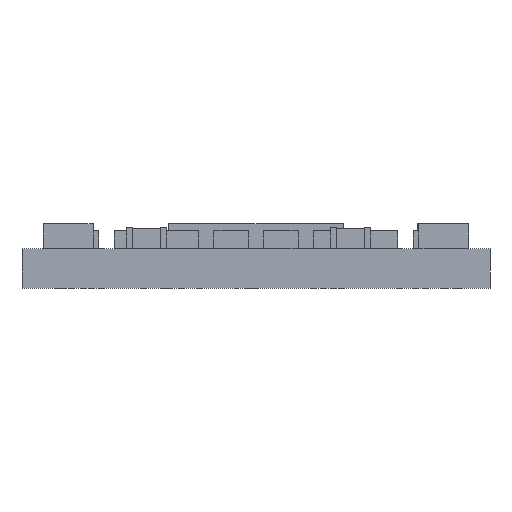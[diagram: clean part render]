
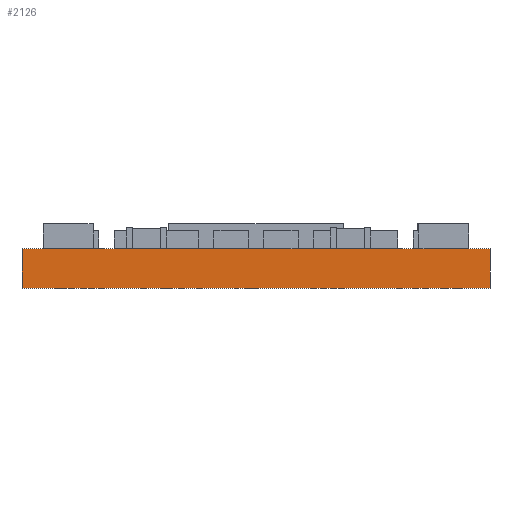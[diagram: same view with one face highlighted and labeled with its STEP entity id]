
A CAD part, front view. The second image highlights one B-rep face of the part: STEP entity #2126.
In plain terms, the highlighted planar face has unit normal (0, -1, 0).
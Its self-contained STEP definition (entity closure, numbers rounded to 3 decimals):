
#15=DIRECTION('',(1.,0.,0.));
#16=VECTOR('',#15,18.8);
#17=CARTESIAN_POINT('',(-9.4,-9.4,0.));
#18=LINE('',#17,#16);
#572=DIRECTION('',(0.,0.,1.));
#573=VECTOR('',#572,1.6);
#574=CARTESIAN_POINT('',(-9.4,-9.4,0.));
#575=LINE('',#574,#573);
#593=DIRECTION('',(0.,0.,1.));
#594=VECTOR('',#593,1.6);
#595=CARTESIAN_POINT('',(9.4,-9.4,0.));
#596=LINE('',#595,#594);
#600=DIRECTION('',(1.,0.,0.));
#601=VECTOR('',#600,18.8);
#602=CARTESIAN_POINT('',(-9.4,-9.4,1.6));
#603=LINE('',#602,#601);
#1618=CARTESIAN_POINT('',(-9.4,-9.4,0.));
#1619=CARTESIAN_POINT('',(9.4,-9.4,0.));
#1620=VERTEX_POINT('',#1618);
#1621=VERTEX_POINT('',#1619);
#1626=CARTESIAN_POINT('',(-9.4,-9.4,1.6));
#1627=CARTESIAN_POINT('',(9.4,-9.4,1.6));
#1628=VERTEX_POINT('',#1626);
#1629=VERTEX_POINT('',#1627);
#2112=CARTESIAN_POINT('',(-9.4,-9.4,0.));
#2113=DIRECTION('',(0.,-1.,0.));
#2114=DIRECTION('',(1.,0.,0.));
#2115=AXIS2_PLACEMENT_3D('',#2112,#2113,#2114);
#2116=PLANE('',#2115);
#2117=ORIENTED_EDGE('',*,*,#1903,.F.);
#2119=ORIENTED_EDGE('',*,*,#2118,.T.);
#2121=ORIENTED_EDGE('',*,*,#2120,.T.);
#2123=ORIENTED_EDGE('',*,*,#2122,.F.);
#2124=EDGE_LOOP('',(#2117,#2119,#2121,#2123));
#2125=FACE_OUTER_BOUND('',#2124,.F.);
#1903=EDGE_CURVE('',#1620,#1621,#18,.T.);
#2118=EDGE_CURVE('',#1620,#1628,#575,.T.);
#2120=EDGE_CURVE('',#1628,#1629,#603,.T.);
#2122=EDGE_CURVE('',#1621,#1629,#596,.T.);
#2126=ADVANCED_FACE('',(#2125),#2116,.T.);
